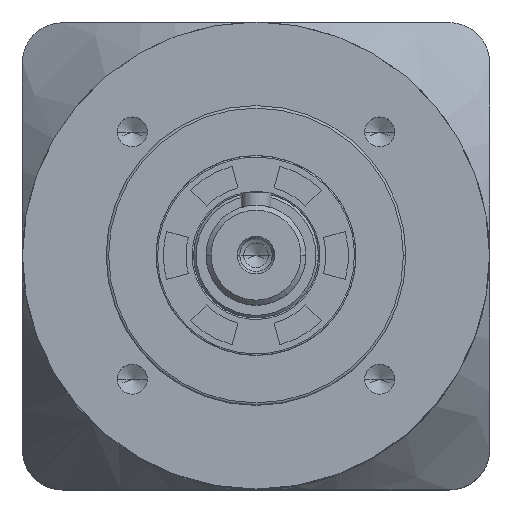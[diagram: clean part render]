
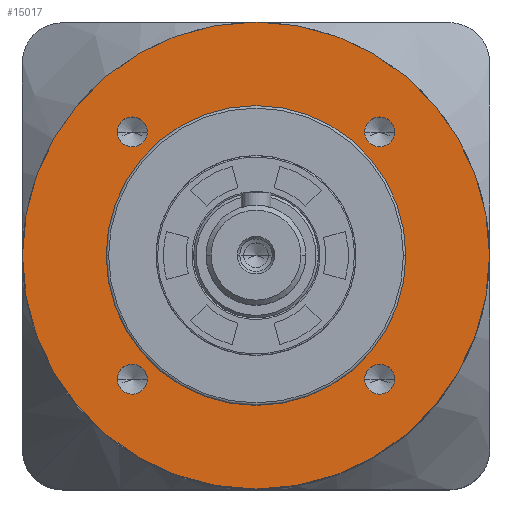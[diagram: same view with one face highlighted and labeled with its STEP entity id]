
A CAD part, top view. The second image highlights one B-rep face of the part: STEP entity #15017.
In plain terms, the highlighted planar face has unit normal (0, 0, 1).
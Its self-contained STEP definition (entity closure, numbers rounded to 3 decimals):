
#156 = ORIENTED_EDGE ( 'NONE', *, *, #22393, .F. ) ;
#165 = CIRCLE ( 'NONE', #25996, 3. ) ;
#275 = CARTESIAN_POINT ( 'NONE',  ( 27.749, -24.749, 21.1 ) ) ;
#920 = DIRECTION ( 'NONE',  ( 0., 0., 1. ) ) ;
#1516 = DIRECTION ( 'NONE',  ( 0., 0., 1. ) ) ;
#1593 = VERTEX_POINT ( 'NONE', #2587 ) ;
#2067 = EDGE_LOOP ( 'NONE', ( #7445, #7170 ) ) ;
#2398 = ORIENTED_EDGE ( 'NONE', *, *, #5933, .F. ) ;
#2587 = CARTESIAN_POINT ( 'NONE',  ( 27.749, 24.749, 21.1 ) ) ;
#2663 = CARTESIAN_POINT ( 'NONE',  ( 24.749, -24.749, 21.1 ) ) ;
#2669 = DIRECTION ( 'NONE',  ( 0., 0., 1. ) ) ;
#3221 = FACE_BOUND ( 'NONE', #7527, .T. ) ;
#3325 = ORIENTED_EDGE ( 'NONE', *, *, #29192, .F. ) ;
#3426 = ORIENTED_EDGE ( 'NONE', *, *, #11504, .F. ) ;
#3491 = EDGE_LOOP ( 'NONE', ( #156, #2398 ) ) ;
#3909 = EDGE_LOOP ( 'NONE', ( #3325, #6360 ) ) ;
#4149 = PLANE ( 'NONE',  #26072 ) ;
#4226 = DIRECTION ( 'NONE',  ( 1., 0., 0. ) ) ;
#4229 = DIRECTION ( 'NONE',  ( 0., 0., 1. ) ) ;
#4629 = AXIS2_PLACEMENT_3D ( 'NONE', #24278, #10236, #12590 ) ;
#5014 = CARTESIAN_POINT ( 'NONE',  ( 24.749, -24.749, 21.1 ) ) ;
#5602 = AXIS2_PLACEMENT_3D ( 'NONE', #18250, #22965, #4226 ) ;
#5654 = ORIENTED_EDGE ( 'NONE', *, *, #29764, .F. ) ;
#5933 = EDGE_CURVE ( 'NONE', #21686, #13552, #13356, .T. ) ;
#6360 = ORIENTED_EDGE ( 'NONE', *, *, #25677, .F. ) ;
#6824 = AXIS2_PLACEMENT_3D ( 'NONE', #9055, #27811, #13769 ) ;
#6970 = DIRECTION ( 'NONE',  ( 1., 0., 0. ) ) ;
#7170 = ORIENTED_EDGE ( 'NONE', *, *, #11122, .F. ) ;
#7342 = DIRECTION ( 'NONE',  ( 1., 0., 0. ) ) ;
#7445 = ORIENTED_EDGE ( 'NONE', *, *, #29599, .F. ) ;
#7527 = EDGE_LOOP ( 'NONE', ( #28423, #3426 ) ) ;
#7732 = CIRCLE ( 'NONE', #28185, 30. ) ;
#7889 = DIRECTION ( 'NONE',  ( 1., 0., 0. ) ) ;
#7975 = CIRCLE ( 'NONE', #6824, 3. ) ;
#7989 = CARTESIAN_POINT ( 'NONE',  ( 21.749, -24.749, 21.1 ) ) ;
#8528 = ORIENTED_EDGE ( 'NONE', *, *, #27100, .T. ) ;
#8618 = CARTESIAN_POINT ( 'NONE',  ( -46.75, 0., 21.1 ) ) ;
#8863 = CIRCLE ( 'NONE', #14153, 3. ) ;
#8866 = CARTESIAN_POINT ( 'NONE',  ( -30., 0., 21.1 ) ) ;
#9055 = CARTESIAN_POINT ( 'NONE',  ( 24.749, 24.749, 21.1 ) ) ;
#9493 = DIRECTION ( 'NONE',  ( 0., 0., 1. ) ) ;
#9892 = AXIS2_PLACEMENT_3D ( 'NONE', #29701, #10944, #29805 ) ;
#9979 = EDGE_CURVE ( 'NONE', #29002, #23631, #23872, .T. ) ;
#10182 = FACE_BOUND ( 'NONE', #2067, .T. ) ;
#10236 = DIRECTION ( 'NONE',  ( 0., 0., 1. ) ) ;
#10944 = DIRECTION ( 'NONE',  ( 0., 0., 1. ) ) ;
#11034 = CARTESIAN_POINT ( 'NONE',  ( -24.749, -24.749, 21.1 ) ) ;
#11122 = EDGE_CURVE ( 'NONE', #12147, #28746, #7732, .T. ) ;
#11237 = EDGE_LOOP ( 'NONE', ( #5654, #18432 ) ) ;
#11327 = CIRCLE ( 'NONE', #9892, 30. ) ;
#11411 = CARTESIAN_POINT ( 'NONE',  ( 0., 0., 21.1 ) ) ;
#11504 = EDGE_CURVE ( 'NONE', #28338, #1593, #11722, .T. ) ;
#11722 = CIRCLE ( 'NONE', #4629, 3. ) ;
#12147 = VERTEX_POINT ( 'NONE', #24863 ) ;
#12225 = CARTESIAN_POINT ( 'NONE',  ( -21.749, 24.749, 21.1 ) ) ;
#12290 = CARTESIAN_POINT ( 'NONE',  ( 0., 0., 21.1 ) ) ;
#12381 = FACE_BOUND ( 'NONE', #11237, .T. ) ;
#12590 = DIRECTION ( 'NONE',  ( 1., 0., 0. ) ) ;
#13261 = AXIS2_PLACEMENT_3D ( 'NONE', #16085, #4229, #22460 ) ;
#13356 = CIRCLE ( 'NONE', #13553, 3. ) ;
#13528 = CIRCLE ( 'NONE', #28752, 3. ) ;
#13552 = VERTEX_POINT ( 'NONE', #275 ) ;
#13553 = AXIS2_PLACEMENT_3D ( 'NONE', #2663, #28385, #6970 ) ;
#13766 = DIRECTION ( 'NONE',  ( 1., 0., 0. ) ) ;
#13769 = DIRECTION ( 'NONE',  ( 1., 0., 0. ) ) ;
#13870 = CARTESIAN_POINT ( 'NONE',  ( -24.749, 24.749, 21.1 ) ) ;
#14016 = CARTESIAN_POINT ( 'NONE',  ( -27.749, 24.749, 21.1 ) ) ;
#14153 = AXIS2_PLACEMENT_3D ( 'NONE', #13870, #30302, #23319 ) ;
#14461 = EDGE_CURVE ( 'NONE', #20158, #25401, #23766, .T. ) ;
#14729 = ORIENTED_EDGE ( 'NONE', *, *, #9979, .T. ) ;
#15017 = ADVANCED_FACE ( 'NONE', ( #12381, #25575, #3221, #24121, #10182, #22276 ), #4149, .T. ) ;
#15035 = EDGE_CURVE ( 'NONE', #1593, #28338, #7975, .T. ) ;
#15307 = VERTEX_POINT ( 'NONE', #14016 ) ;
#15742 = DIRECTION ( 'NONE',  ( 1., 0., 0. ) ) ;
#16024 = DIRECTION ( 'NONE',  ( 1., 0., 0. ) ) ;
#16085 = CARTESIAN_POINT ( 'NONE',  ( -24.749, -24.749, 21.1 ) ) ;
#17984 = CARTESIAN_POINT ( 'NONE',  ( -21.749, -24.749, 21.1 ) ) ;
#18084 = CARTESIAN_POINT ( 'NONE',  ( 0., 0., 21.1 ) ) ;
#18250 = CARTESIAN_POINT ( 'NONE',  ( -24.749, 24.749, 21.1 ) ) ;
#18298 = CIRCLE ( 'NONE', #5602, 3. ) ;
#18432 = ORIENTED_EDGE ( 'NONE', *, *, #14461, .F. ) ;
#19264 = CARTESIAN_POINT ( 'NONE',  ( 0., 0., 21.1 ) ) ;
#20158 = VERTEX_POINT ( 'NONE', #23378 ) ;
#20209 = CIRCLE ( 'NONE', #25971, 46.75 ) ;
#20581 = CARTESIAN_POINT ( 'NONE',  ( 21.749, 24.749, 21.1 ) ) ;
#21686 = VERTEX_POINT ( 'NONE', #7989 ) ;
#22276 = FACE_OUTER_BOUND ( 'NONE', #22844, .T. ) ;
#22393 = EDGE_CURVE ( 'NONE', #13552, #21686, #165, .T. ) ;
#22460 = DIRECTION ( 'NONE',  ( 1., 0., 0. ) ) ;
#22844 = EDGE_LOOP ( 'NONE', ( #14729, #8528 ) ) ;
#22965 = DIRECTION ( 'NONE',  ( 0., 0., 1. ) ) ;
#23153 = VERTEX_POINT ( 'NONE', #12225 ) ;
#23319 = DIRECTION ( 'NONE',  ( 1., 0., 0. ) ) ;
#23378 = CARTESIAN_POINT ( 'NONE',  ( -27.749, -24.749, 21.1 ) ) ;
#23631 = VERTEX_POINT ( 'NONE', #8618 ) ;
#23766 = CIRCLE ( 'NONE', #13261, 3. ) ;
#23872 = CIRCLE ( 'NONE', #26383, 46.75 ) ;
#24090 = DIRECTION ( 'NONE',  ( 1., 0., 0. ) ) ;
#24121 = FACE_BOUND ( 'NONE', #3909, .T. ) ;
#24278 = CARTESIAN_POINT ( 'NONE',  ( 24.749, 24.749, 21.1 ) ) ;
#24863 = CARTESIAN_POINT ( 'NONE',  ( 30., 0., 21.1 ) ) ;
#25401 = VERTEX_POINT ( 'NONE', #17984 ) ;
#25575 = FACE_BOUND ( 'NONE', #3491, .T. ) ;
#25677 = EDGE_CURVE ( 'NONE', #15307, #23153, #8863, .T. ) ;
#25971 = AXIS2_PLACEMENT_3D ( 'NONE', #12290, #920, #7889 ) ;
#25996 = AXIS2_PLACEMENT_3D ( 'NONE', #5014, #9493, #7342 ) ;
#26072 = AXIS2_PLACEMENT_3D ( 'NONE', #18084, #30069, #16024 ) ;
#26383 = AXIS2_PLACEMENT_3D ( 'NONE', #11411, #27806, #13766 ) ;
#27100 = EDGE_CURVE ( 'NONE', #23631, #29002, #20209, .T. ) ;
#27806 = DIRECTION ( 'NONE',  ( 0., 0., 1. ) ) ;
#27811 = DIRECTION ( 'NONE',  ( 0., 0., 1. ) ) ;
#28185 = AXIS2_PLACEMENT_3D ( 'NONE', #19264, #2669, #24090 ) ;
#28338 = VERTEX_POINT ( 'NONE', #20581 ) ;
#28385 = DIRECTION ( 'NONE',  ( 0., 0., 1. ) ) ;
#28423 = ORIENTED_EDGE ( 'NONE', *, *, #15035, .F. ) ;
#28746 = VERTEX_POINT ( 'NONE', #8866 ) ;
#28752 = AXIS2_PLACEMENT_3D ( 'NONE', #11034, #1516, #15742 ) ;
#29002 = VERTEX_POINT ( 'NONE', #29083 ) ;
#29083 = CARTESIAN_POINT ( 'NONE',  ( 46.75, 0., 21.1 ) ) ;
#29192 = EDGE_CURVE ( 'NONE', #23153, #15307, #18298, .T. ) ;
#29599 = EDGE_CURVE ( 'NONE', #28746, #12147, #11327, .T. ) ;
#29701 = CARTESIAN_POINT ( 'NONE',  ( 0., 0., 21.1 ) ) ;
#29764 = EDGE_CURVE ( 'NONE', #25401, #20158, #13528, .T. ) ;
#29805 = DIRECTION ( 'NONE',  ( 1., 0., 0. ) ) ;
#30069 = DIRECTION ( 'NONE',  ( 0., 0., 1. ) ) ;
#30302 = DIRECTION ( 'NONE',  ( 0., 0., 1. ) ) ;
